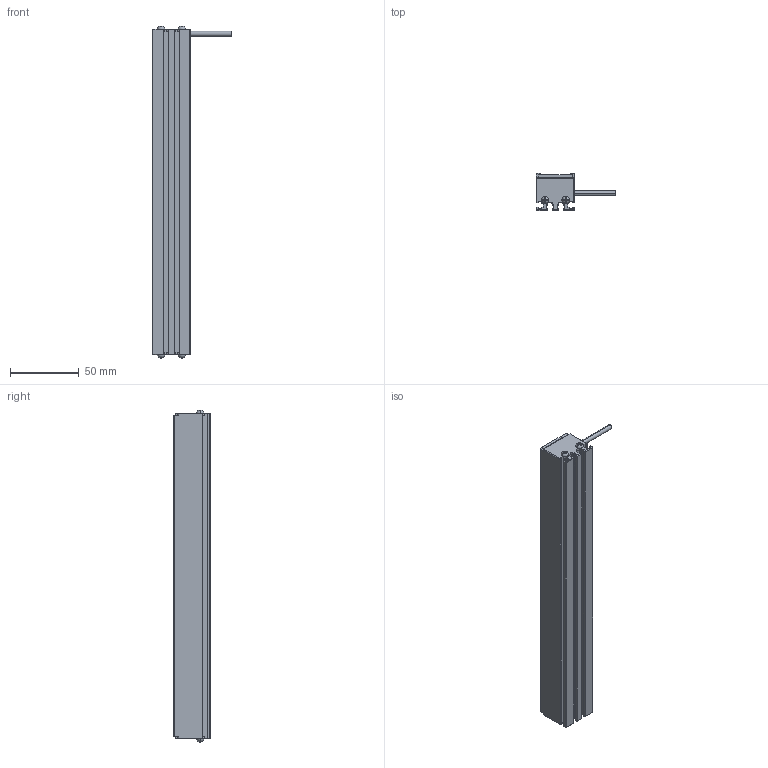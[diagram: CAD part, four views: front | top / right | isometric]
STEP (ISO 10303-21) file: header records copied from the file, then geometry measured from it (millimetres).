
FILE_DESCRIPTION((''),'2;1');
FILE_NAME('MV-LLDS-237-28_ASM','2020-12-29T',('Administrator'),(''),'PRO/ENGINEER BY PARAMETRIC TECHNOLOGY CORPORATION, 2010100','PRO/ENGINEER BY PARAMETRIC TECHNOLOGY CORPORATION, 2010100','');
FILE_SCHEMA(('CONFIG_CONTROL_DESIGN'));
Length unit declared in the file: millimetre
Products named in the file (3): BL-4_3_; M3-5_3; MV-LLDS-237-28_ASM
Assembly tree (5 placements, depth 2):
  MV-LLDS-237-28_ASM
    BL-4_3_
    M3-5_3  x4
Bounding box: 58 x 27 x 241.68 mm (x, y, z)
Volume: 148631.9 mm3; surface area: 56979.3 mm2
Topology: 5 solids, 13 shells, 303 faces, 802 edges, 516 vertices
Faces by surface type: plane 185, cylinder 70, cone 16, bspline 16, torus 8, sphere 8
Entity records: 6728 total; most frequent: CARTESIAN_POINT 1440, ORIENTED_EDGE 1074, DIRECTION 1069, EDGE_CURVE 547, VECTOR 397, LINE 397, VERTEX_POINT 357, AXIS2_PLACEMENT_3D 336
